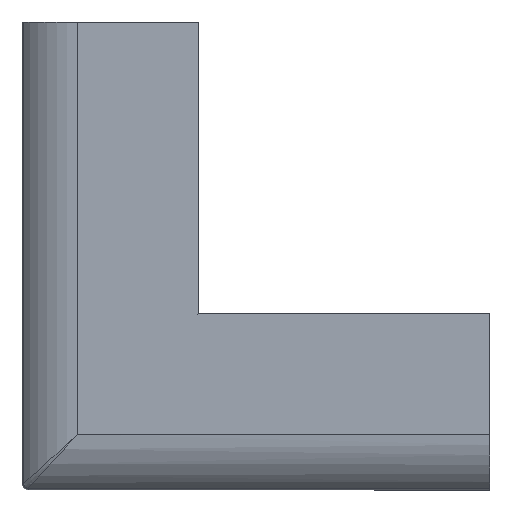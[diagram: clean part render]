
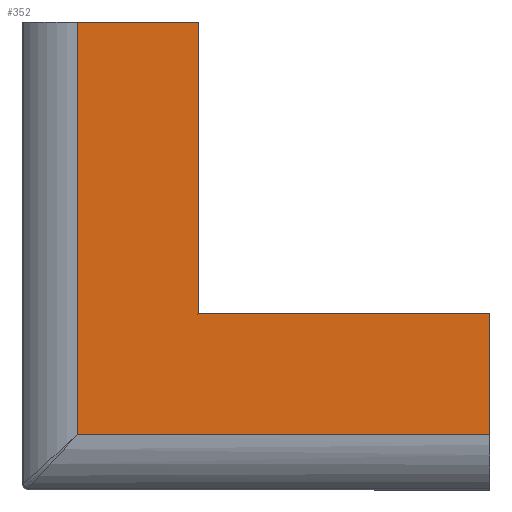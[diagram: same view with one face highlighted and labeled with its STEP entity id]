
A CAD part, left-side view. The second image highlights one B-rep face of the part: STEP entity #352.
In plain terms, the highlighted planar face has unit normal (-1, 0, 0).
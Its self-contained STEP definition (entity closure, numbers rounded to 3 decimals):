
#15 = ORIENTED_EDGE ( 'NONE', *, *, #406, .T. ) ;
#18 = VECTOR ( 'NONE', #964, 1000. ) ;
#34 = CARTESIAN_POINT ( 'NONE',  ( 0., 9., 0. ) ) ;
#148 = EDGE_CURVE ( 'NONE', #694, #1244, #566, .T. ) ;
#180 = EDGE_CURVE ( 'NONE', #437, #627, #838, .T. ) ;
#272 = VECTOR ( 'NONE', #635, 1000. ) ;
#273 = CARTESIAN_POINT ( 'NONE',  ( 0., -1., -24. ) ) ;
#299 = DIRECTION ( 'NONE',  ( 0., -1., 0. ) ) ;
#324 = LINE ( 'NONE', #1111, #18 ) ;
#327 = VECTOR ( 'NONE', #1021, 1000. ) ;
#352 = ADVANCED_FACE ( 'NONE', ( #425 ), #781, .T. ) ;
#373 = VERTEX_POINT ( 'NONE', #1220 ) ;
#375 = EDGE_CURVE ( 'NONE', #1252, #437, #767, .T. ) ;
#406 = EDGE_CURVE ( 'NONE', #1252, #373, #324, .T. ) ;
#425 = FACE_OUTER_BOUND ( 'NONE', #1452, .T. ) ;
#437 = VERTEX_POINT ( 'NONE', #34 ) ;
#440 = DIRECTION ( 'NONE',  ( 0., 0., 1. ) ) ;
#499 = CARTESIAN_POINT ( 'NONE',  ( 0., -1., 0. ) ) ;
#523 = CARTESIAN_POINT ( 'NONE',  ( 0., 14., -24. ) ) ;
#532 = AXIS2_PLACEMENT_3D ( 'NONE', #1339, #550, #892 ) ;
#537 = VECTOR ( 'NONE', #299, 1000. ) ;
#550 = DIRECTION ( 'NONE',  ( -1., 0., 0. ) ) ;
#566 = LINE ( 'NONE', #523, #272 ) ;
#627 = VERTEX_POINT ( 'NONE', #499 ) ;
#633 = VECTOR ( 'NONE', #743, 1000. ) ;
#635 = DIRECTION ( 'NONE',  ( 0., -1., 0. ) ) ;
#675 = CARTESIAN_POINT ( 'NONE',  ( 0., 9., -39. ) ) ;
#694 = VERTEX_POINT ( 'NONE', #273 ) ;
#699 = LINE ( 'NONE', #942, #327 ) ;
#711 = EDGE_CURVE ( 'NONE', #694, #627, #699, .T. ) ;
#743 = DIRECTION ( 'NONE',  ( 0., 0., 1. ) ) ;
#755 = CARTESIAN_POINT ( 'NONE',  ( 0., 0., 0. ) ) ;
#767 = LINE ( 'NONE', #675, #1246 ) ;
#769 = CARTESIAN_POINT ( 'NONE',  ( 0., -25., -24. ) ) ;
#781 = PLANE ( 'NONE',  #532 ) ;
#831 = CARTESIAN_POINT ( 'NONE',  ( 0., 9., -34. ) ) ;
#838 = LINE ( 'NONE', #755, #537 ) ;
#853 = ORIENTED_EDGE ( 'NONE', *, *, #711, .T. ) ;
#892 = DIRECTION ( 'NONE',  ( 0., 0., 1. ) ) ;
#941 = CARTESIAN_POINT ( 'NONE',  ( 0., -25., -25. ) ) ;
#942 = CARTESIAN_POINT ( 'NONE',  ( 0., -1., -39. ) ) ;
#964 = DIRECTION ( 'NONE',  ( 0., -1., 0. ) ) ;
#1021 = DIRECTION ( 'NONE',  ( 0., 0., 1. ) ) ;
#1102 = ORIENTED_EDGE ( 'NONE', *, *, #148, .F. ) ;
#1111 = CARTESIAN_POINT ( 'NONE',  ( 0., 14., -34. ) ) ;
#1201 = ORIENTED_EDGE ( 'NONE', *, *, #375, .F. ) ;
#1220 = CARTESIAN_POINT ( 'NONE',  ( 0., -25., -34. ) ) ;
#1244 = VERTEX_POINT ( 'NONE', #769 ) ;
#1246 = VECTOR ( 'NONE', #440, 1000. ) ;
#1252 = VERTEX_POINT ( 'NONE', #831 ) ;
#1270 = ORIENTED_EDGE ( 'NONE', *, *, #1307, .T. ) ;
#1289 = ORIENTED_EDGE ( 'NONE', *, *, #180, .F. ) ;
#1307 = EDGE_CURVE ( 'NONE', #373, #1244, #1337, .T. ) ;
#1337 = LINE ( 'NONE', #941, #633 ) ;
#1339 = CARTESIAN_POINT ( 'NONE',  ( 0., 0., -39. ) ) ;
#1452 = EDGE_LOOP ( 'NONE', ( #1201, #15, #1270, #1102, #853, #1289 ) ) ;
